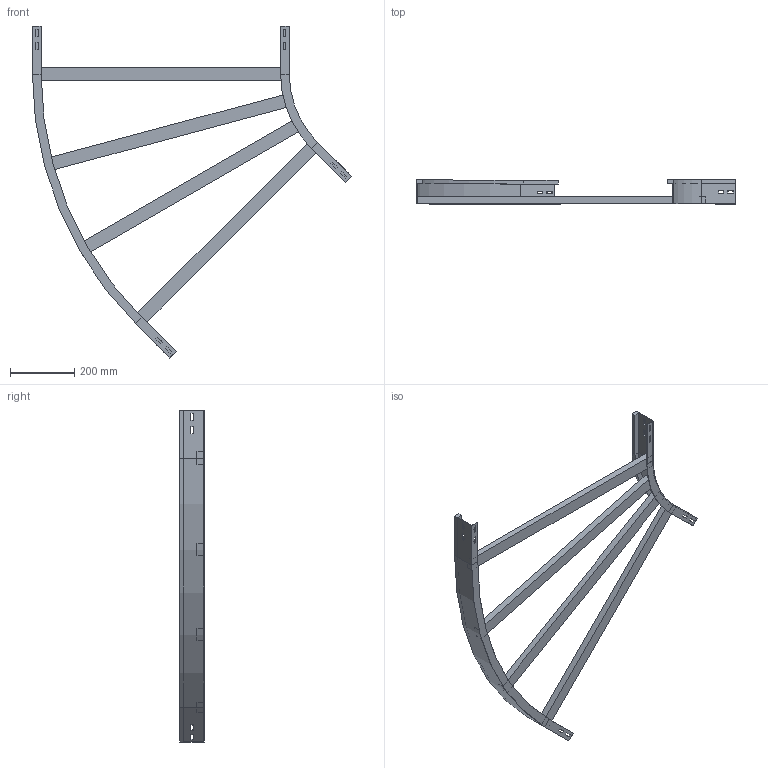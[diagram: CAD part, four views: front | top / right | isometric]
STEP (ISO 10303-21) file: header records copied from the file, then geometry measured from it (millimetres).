
FILE_DESCRIPTION (( 'STEP AP214' ), '1' );
FILE_NAME ('A2_11B3C800.step', '2025-02-21T15:16:17', ( '' ), ( '' ), 'SwSTEP 2.0', 'SolidWorks 2023', '' );
FILE_SCHEMA (( 'AUTOMOTIVE_DESIGN' ));
Length unit declared in the file: millimetre
Products named in the file (4): A2_LONGH.ESTERNO 45°_H75_R300+800; A2_11B3C800; TRAVERSINO_800; A2_LONGH.INTERNO 45°_H75_R300
Assembly tree (6 placements, depth 2):
  A2_11B3C800
    A2_LONGH.INTERNO 45°_H75_R300
    A2_LONGH.ESTERNO 45°_H75_R300+800
    TRAVERSINO_800  x4
Bounding box: 993.93 x 75 x 1033.88 mm (x, y, z)
Volume: 3240338.5 mm3; surface area: 791335.6 mm2
Topology: 6 solids, 6 shells, 140 faces, 352 edges, 224 vertices
Faces by surface type: plane 132, cylinder 8
Entity records: 3829 total; most frequent: CARTESIAN_POINT 647, ORIENTED_EDGE 632, DIRECTION 594, EDGE_CURVE 316, VECTOR 300, LINE 300, VERTEX_POINT 200, EDGE_LOOP 154
